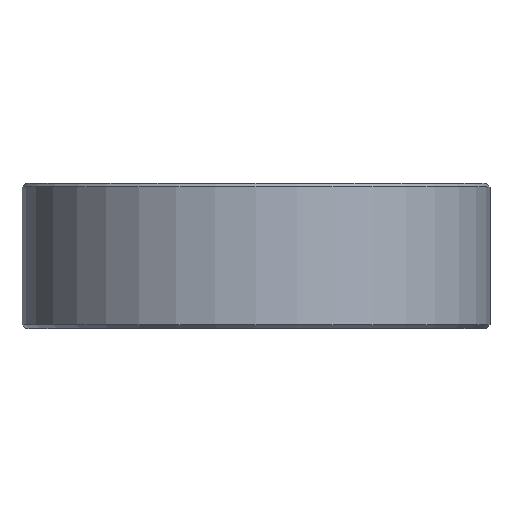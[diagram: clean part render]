
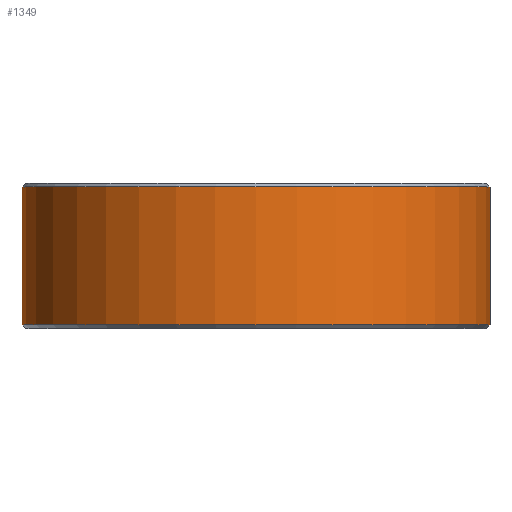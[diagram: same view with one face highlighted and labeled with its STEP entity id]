
A CAD part, top view. The second image highlights one B-rep face of the part: STEP entity #1349.
In plain terms, the highlighted cylindrical face has radius 12.9 mm (diameter 25.8 mm), a partial arc.
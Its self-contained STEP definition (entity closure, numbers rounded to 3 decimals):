
#59=DIRECTION('',(0.,-1.,0.));
#60=VECTOR('',#59,7.6);
#61=CARTESIAN_POINT('',(-12.9,7.8,0.));
#62=LINE('',#61,#60);
#311=CARTESIAN_POINT('',(0.,0.2,0.));
#312=DIRECTION('',(0.,-1.,0.));
#313=DIRECTION('',(1.,0.,0.));
#314=AXIS2_PLACEMENT_3D('',#311,#312,#313);
#316=CARTESIAN_POINT('',(0.,7.8,0.));
#317=DIRECTION('',(0.,1.,0.));
#318=DIRECTION('',(-1.,0.,0.));
#319=AXIS2_PLACEMENT_3D('',#316,#317,#318);
#321=DIRECTION('',(0.,-1.,0.));
#322=VECTOR('',#321,7.6);
#323=CARTESIAN_POINT('',(12.9,7.8,0.));
#324=LINE('',#323,#322);
#1011=CARTESIAN_POINT('',(12.9,7.8,0.));
#1012=VERTEX_POINT('',#1011);
#1013=CARTESIAN_POINT('',(-12.9,7.8,0.));
#1014=VERTEX_POINT('',#1013);
#1015=CARTESIAN_POINT('',(12.9,0.2,0.));
#1016=VERTEX_POINT('',#1015);
#1017=CARTESIAN_POINT('',(-12.9,0.2,0.));
#1018=VERTEX_POINT('',#1017);
#1337=CARTESIAN_POINT('',(0.,0.,0.));
#1338=DIRECTION('',(0.,1.,0.));
#1339=DIRECTION('',(1.,0.,0.));
#1340=AXIS2_PLACEMENT_3D('',#1337,#1338,#1339);
#1341=CYLINDRICAL_SURFACE('',#1340,12.9);
#1342=ORIENTED_EDGE('',*,*,#1187,.T.);
#1343=ORIENTED_EDGE('',*,*,#1218,.F.);
#1345=ORIENTED_EDGE('',*,*,#1344,.T.);
#1346=ORIENTED_EDGE('',*,*,#1214,.T.);
#1347=EDGE_LOOP('',(#1342,#1343,#1345,#1346));
#1348=FACE_OUTER_BOUND('',#1347,.F.);
#1349=ADVANCED_FACE('',(#1348),#1341,.T.);
#315=CIRCLE('',#314,12.9);
#320=CIRCLE('',#319,12.9);
#1187=EDGE_CURVE('',#1016,#1018,#315,.T.);
#1214=EDGE_CURVE('',#1012,#1016,#324,.T.);
#1218=EDGE_CURVE('',#1014,#1018,#62,.T.);
#1344=EDGE_CURVE('',#1014,#1012,#320,.T.);
